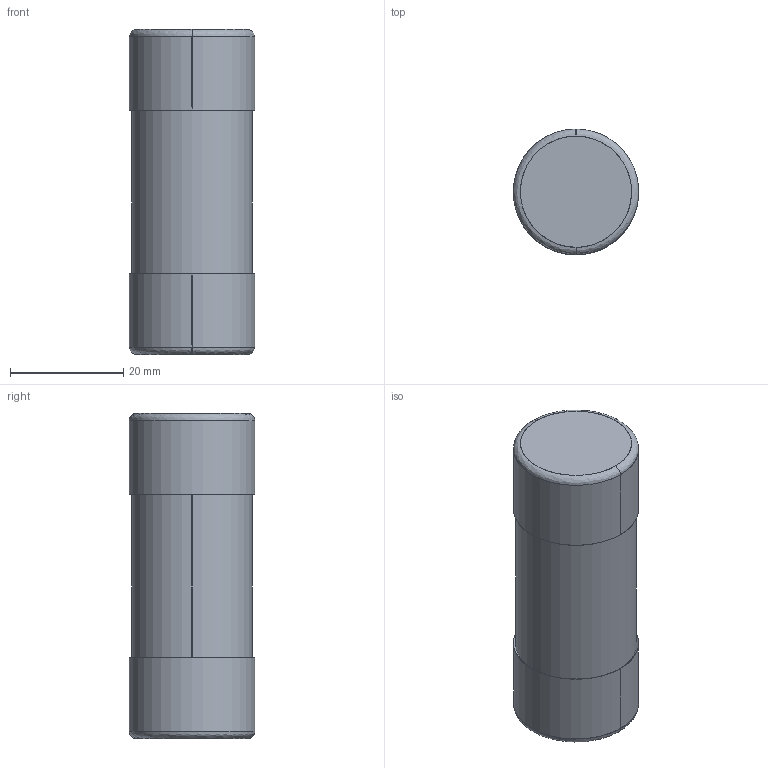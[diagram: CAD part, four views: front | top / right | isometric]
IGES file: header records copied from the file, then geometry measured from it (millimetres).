
Start section: SolidWorks IGES file using analytic representation for surfaces
Global section: file name: U:\14_RD\05_Technical_office\04_Office\Hrdinova\3D modely - IGES\Varius - Ostatní\PV22.IGS; native system: SolidWorks 2011; preprocessor: SolidWorks 2011; author: adhrja3; date: 170620.141248; units: millimetre
Bounding box: 22.1 x 22.1 x 57.31 mm (x, y, z)
Surface area: 11785.5 mm2 (no closed solid volume)
Topology: 0 solids, 0 shells, 36 faces, 504 edges, 504 vertices
Faces by surface type: revolution 20, bspline 16
